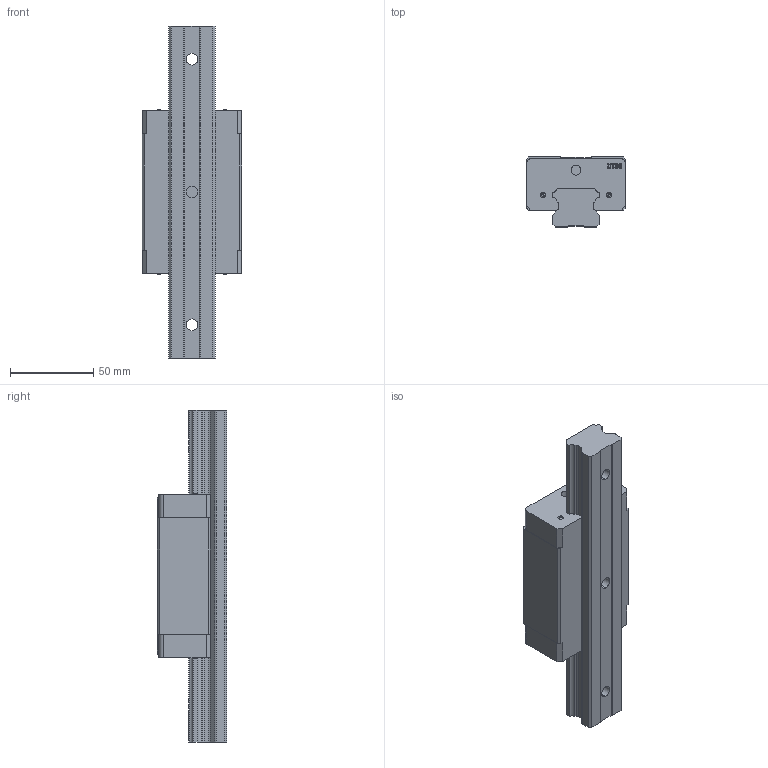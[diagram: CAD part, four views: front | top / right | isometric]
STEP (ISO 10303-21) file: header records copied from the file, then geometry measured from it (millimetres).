
FILE_DESCRIPTION (( 'STEP AP214' ), '1' );
FILE_NAME ('7.1076 Lineaarikelkka ETH30CA.STEP', '2026-03-13T08:45:27', ( '' ), ( '' ), 'SwSTEP 2.0', 'SolidWorks 2025', '' );
FILE_SCHEMA (( 'AUTOMOTIVE_DESIGN' ));
Length unit declared in the file: millimetre
Products named in the file (3): ET30_RAIL; ETH30CA_BLOCK; 7.1076 Lineaarikelkka ETH30CA
Assembly tree (2 placements, depth 2):
  7.1076 Lineaarikelkka ETH30CA
    ET30_RAIL
    ETH30CA_BLOCK
Bounding box: 60 x 42 x 200 mm (x, y, z)
Volume: 262864.9 mm3; surface area: 49002.9 mm2
Topology: 2 solids, 2 shells, 254 faces, 668 edges, 445 vertices
Faces by surface type: plane 149, cylinder 64, bspline 25, torus 8, cone 8
Entity records: 13342 total; most frequent: CARTESIAN_POINT 4189, ORIENTED_EDGE 1336, DIRECTION 1222, EDGE_CURVE 668, LINE 450, VECTOR 450, VERTEX_POINT 445, AXIS2_PLACEMENT_3D 386
